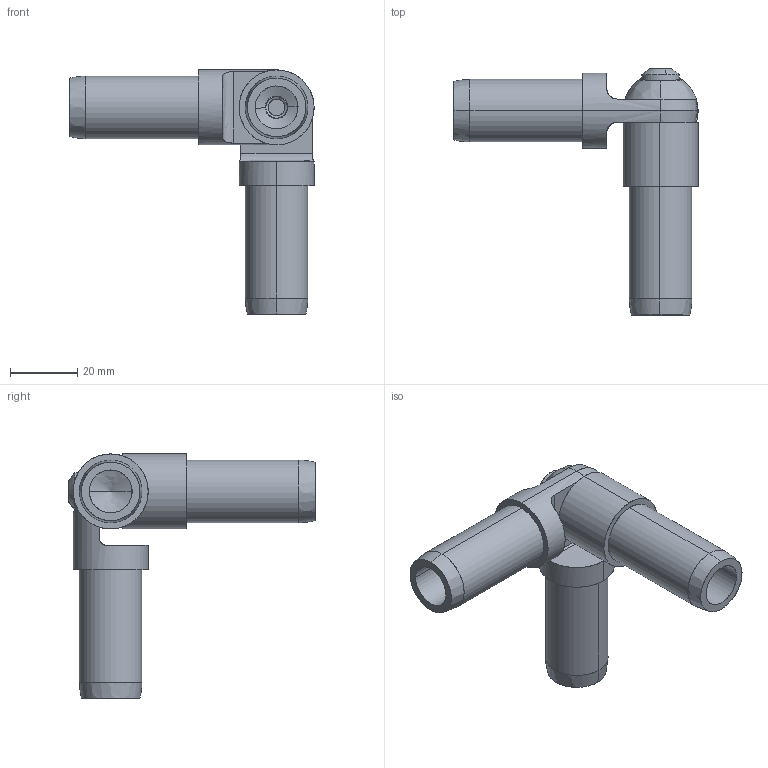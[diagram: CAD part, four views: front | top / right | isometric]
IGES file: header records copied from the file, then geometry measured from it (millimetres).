
Start section: SolidWorks IGES file using analytic representation for surfaces
Global section: file name: \\SERVER3\Design\_New Design Drive Folder List\_Design Vault\AAI\Modular Round Tube Connectors\Solidworks Models\STP Files\12202013\0.750 Inch Modular Connectors\Assemblies\0.75 Inch Adjustable 90 Degree 3-Tube Joint Kit.IGS; native system: SolidWorks 2013; preprocessor: SolidWorks 2013; author: tbraun; date: 140109.103421; units: inch
Bounding box: 72.38 x 72.95 x 72.38 mm (x, y, z)
Surface area: 20353 mm2 (no closed solid volume)
Topology: 0 solids, 0 shells, 224 faces, 3093 edges, 3087 vertices
Faces by surface type: revolution 174, bspline 50
